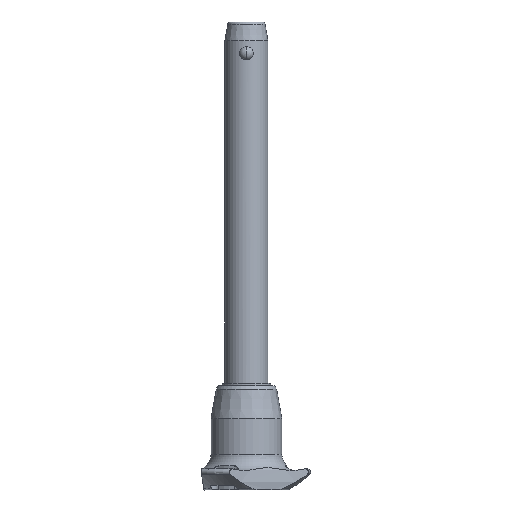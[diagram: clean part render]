
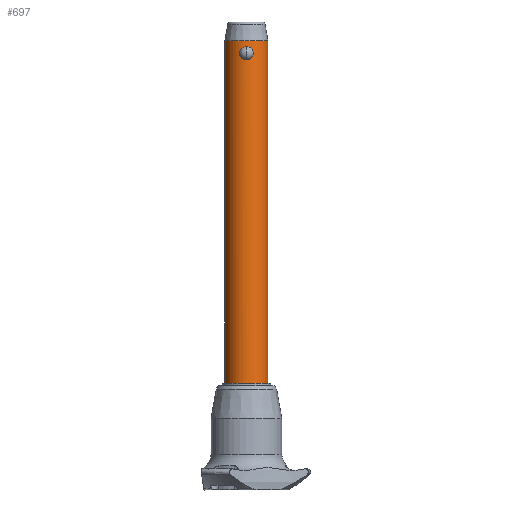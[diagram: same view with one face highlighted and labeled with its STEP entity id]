
A CAD part, front view. The second image highlights one B-rep face of the part: STEP entity #697.
In plain terms, the highlighted cylindrical face has radius 8 mm (diameter 16 mm), a partial arc.
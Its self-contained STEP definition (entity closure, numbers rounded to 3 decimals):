
#45 = CARTESIAN_POINT ( 'NONE',  ( -0.803, -7.961, 4.661 ) ) ;
#99 = CARTESIAN_POINT ( 'NONE',  ( -2.193, -7.694, 3.623 ) ) ;
#110 = ORIENTED_EDGE ( 'NONE', *, *, #1535, .F. ) ;
#112 = CARTESIAN_POINT ( 'NONE',  ( -2.276, -7.67, 3.482 ) ) ;
#152 = CARTESIAN_POINT ( 'NONE',  ( 0., 0., 7. ) ) ;
#160 = EDGE_LOOP ( 'NONE', ( #1386, #2781 ) ) ;
#165 = ORIENTED_EDGE ( 'NONE', *, *, #455, .T. ) ;
#178 = CARTESIAN_POINT ( 'NONE',  ( 1.529, -7.854, 4.312 ) ) ;
#192 = CARTESIAN_POINT ( 'NONE',  ( 2.546, -7.584, 2.22 ) ) ;
#199 = CARTESIAN_POINT ( 'NONE',  ( -8., 0., -120. ) ) ;
#205 = CARTESIAN_POINT ( 'NONE',  ( -0.164, -8., 4.775 ) ) ;
#270 = ORIENTED_EDGE ( 'NONE', *, *, #1216, .F. ) ;
#288 = CARTESIAN_POINT ( 'NONE',  ( -1.53, -7.854, 0.464 ) ) ;
#306 = CARTESIAN_POINT ( 'NONE',  ( -2.459, -7.613, 3.036 ) ) ;
#331 = CARTESIAN_POINT ( 'NONE',  ( -1.106, -7.925, 0.226 ) ) ;
#340 = VERTEX_POINT ( 'NONE', #1372 ) ;
#365 = CARTESIAN_POINT ( 'NONE',  ( 2.529, -7.59, 2.71 ) ) ;
#380 = CARTESIAN_POINT ( 'NONE',  ( 0.326, -7.995, 4.761 ) ) ;
#393 = CIRCLE ( 'NONE', #852, 8. ) ;
#397 = DIRECTION ( 'NONE',  ( 1., 0., 0. ) ) ;
#401 = VECTOR ( 'NONE', #1915, 1000. ) ;
#455 = EDGE_CURVE ( 'NONE', #2051, #1274, #1279, .T. ) ;
#529 = ORIENTED_EDGE ( 'NONE', *, *, #2589, .T. ) ;
#531 = VECTOR ( 'NONE', #1784, 1000. ) ;
#581 = CARTESIAN_POINT ( 'NONE',  ( 2.016, -7.746, 3.891 ) ) ;
#601 = DIRECTION ( 'NONE',  ( 0., 0., -1. ) ) ;
#623 = CARTESIAN_POINT ( 'NONE',  ( 0.804, -7.961, 4.661 ) ) ;
#641 = CARTESIAN_POINT ( 'NONE',  ( 1.105, -7.925, 0.226 ) ) ;
#657 = FACE_OUTER_BOUND ( 'NONE', #1186, .T. ) ;
#697 = ADVANCED_FACE ( 'NONE', ( #657, #1177 ), #739, .T. ) ;
#739 = CYLINDRICAL_SURFACE ( 'NONE', #1614, 8. ) ;
#764 = CARTESIAN_POINT ( 'NONE',  ( -2.547, -7.584, 2.229 ) ) ;
#828 = CARTESIAN_POINT ( 'NONE',  ( 2.41, -7.629, 3.184 ) ) ;
#852 = AXIS2_PLACEMENT_3D ( 'NONE', #1536, #2033, #1329 ) ;
#868 = CARTESIAN_POINT ( 'NONE',  ( -8., 0., -120. ) ) ;
#924 = CARTESIAN_POINT ( 'NONE',  ( -1.252, -7.903, 4.479 ) ) ;
#936 = CARTESIAN_POINT ( 'NONE',  ( -1.658, -7.827, 4.216 ) ) ;
#960 = B_SPLINE_CURVE_WITH_KNOTS ( 'NONE', 3,
 ( #1151, #205, #1102, #2686, #45, #1087, #924, #981, #936, #2730, #2055, #99, #112, #1678, #306, #1194, #1408, #764, #2300, #1207, #2110, #1878, #1381, #1441, #288, #2272, #331, #2560, #2547, #2085 ),
 .UNSPECIFIED., .F., .F.,
 ( 4, 2, 2, 2, 2, 2, 2, 2, 2, 2, 2, 2, 2, 2, 4 ),
 ( 0., 0., 0.001, 0.001, 0.002, 0.002, 0.003, 0.003, 0.004, 0.004, 0.005, 0.006, 0.006, 0.007, 0.008 ),
 .UNSPECIFIED. ) ;
#981 = CARTESIAN_POINT ( 'NONE',  ( -1.527, -7.854, 4.313 ) ) ;
#1014 = CARTESIAN_POINT ( 'NONE',  ( 2.194, -7.694, 1.153 ) ) ;
#1045 = CARTESIAN_POINT ( 'NONE',  ( 0.652, -7.979, 0.058 ) ) ;
#1061 = CARTESIAN_POINT ( 'NONE',  ( 1.108, -7.924, 4.548 ) ) ;
#1074 = CARTESIAN_POINT ( 'NONE',  ( 1.66, -7.827, 4.215 ) ) ;
#1087 = CARTESIAN_POINT ( 'NONE',  ( -1.107, -7.924, 4.548 ) ) ;
#1098 = VERTEX_POINT ( 'NONE', #1760 ) ;
#1102 = CARTESIAN_POINT ( 'NONE',  ( -0.326, -7.995, 4.761 ) ) ;
#1151 = CARTESIAN_POINT ( 'NONE',  ( 0., -8., 4.775 ) ) ;
#1177 = FACE_BOUND ( 'NONE', #160, .T. ) ;
#1186 = EDGE_LOOP ( 'NONE', ( #110, #270, #529, #165 ) ) ;
#1194 = CARTESIAN_POINT ( 'NONE',  ( -2.529, -7.59, 2.716 ) ) ;
#1207 = CARTESIAN_POINT ( 'NONE',  ( -2.461, -7.612, 1.746 ) ) ;
#1216 = EDGE_CURVE ( 'NONE', #340, #1698, #393, .T. ) ;
#1252 = CARTESIAN_POINT ( 'NONE',  ( 0.645, -7.976, 4.704 ) ) ;
#1274 = VERTEX_POINT ( 'NONE', #1284 ) ;
#1279 = CIRCLE ( 'NONE', #2763, 8. ) ;
#1280 = CARTESIAN_POINT ( 'NONE',  ( 1.657, -7.827, 0.558 ) ) ;
#1284 = CARTESIAN_POINT ( 'NONE',  ( -8., 0., 7. ) ) ;
#1294 = CARTESIAN_POINT ( 'NONE',  ( 1.529, -7.854, 0.463 ) ) ;
#1329 = DIRECTION ( 'NONE',  ( 1., 0., 0. ) ) ;
#1365 = CARTESIAN_POINT ( 'NONE',  ( 8., 0., 7. ) ) ;
#1372 = CARTESIAN_POINT ( 'NONE',  ( 8., 0., -120. ) ) ;
#1381 = CARTESIAN_POINT ( 'NONE',  ( -2.016, -7.746, 0.883 ) ) ;
#1386 = ORIENTED_EDGE ( 'NONE', *, *, #2389, .F. ) ;
#1396 = DIRECTION ( 'NONE',  ( 0., 0., 1. ) ) ;
#1408 = CARTESIAN_POINT ( 'NONE',  ( -2.546, -7.584, 2.553 ) ) ;
#1441 = CARTESIAN_POINT ( 'NONE',  ( -1.659, -7.827, 0.559 ) ) ;
#1475 = CARTESIAN_POINT ( 'NONE',  ( 1.253, -7.903, 4.478 ) ) ;
#1499 = CARTESIAN_POINT ( 'NONE',  ( 2.461, -7.612, 3.027 ) ) ;
#1535 = EDGE_CURVE ( 'NONE', #1698, #1274, #2666, .T. ) ;
#1536 = CARTESIAN_POINT ( 'NONE',  ( 0., 0., -120. ) ) ;
#1614 = AXIS2_PLACEMENT_3D ( 'NONE', #2519, #1396, #2689 ) ;
#1678 = CARTESIAN_POINT ( 'NONE',  ( -2.408, -7.629, 3.189 ) ) ;
#1693 = CARTESIAN_POINT ( 'NONE',  ( 0.324, -8., 0. ) ) ;
#1698 = VERTEX_POINT ( 'NONE', #199 ) ;
#1760 = CARTESIAN_POINT ( 'NONE',  ( 0., -8., 4.775 ) ) ;
#1784 = DIRECTION ( 'NONE',  ( 0., 0., 1. ) ) ;
#1794 = CARTESIAN_POINT ( 'NONE',  ( 0., -8., 0. ) ) ;
#1878 = CARTESIAN_POINT ( 'NONE',  ( -2.211, -7.69, 1.148 ) ) ;
#1910 = CARTESIAN_POINT ( 'NONE',  ( 2.547, -7.584, 2.549 ) ) ;
#1915 = DIRECTION ( 'NONE',  ( 0., 0., 1. ) ) ;
#1922 = CARTESIAN_POINT ( 'NONE',  ( 1.894, -7.773, 0.773 ) ) ;
#1964 = CARTESIAN_POINT ( 'NONE',  ( 2.408, -7.629, 1.586 ) ) ;
#2033 = DIRECTION ( 'NONE',  ( 0., 0., -1. ) ) ;
#2047 = B_SPLINE_CURVE_WITH_KNOTS ( 'NONE', 3,
 ( #2632, #1693, #1045, #641, #2602, #1294, #1280, #1922, #2186, #1014, #2375, #1964, #2416, #2364, #192, #1910, #365, #1499, #828, #2788, #581, #1074, #178, #1475, #1061, #623, #1252, #380, #2843, #2387 ),
 .UNSPECIFIED., .F., .F.,
 ( 4, 2, 2, 2, 2, 2, 2, 2, 2, 2, 2, 2, 2, 2, 4 ),
 ( 0.008, 0.009, 0.009, 0.01, 0.01, 0.011, 0.011, 0.012, 0.012, 0.013, 0.014, 0.014, 0.015, 0.015, 0.016 ),
 .UNSPECIFIED. ) ;
#2051 = VERTEX_POINT ( 'NONE', #1365 ) ;
#2055 = CARTESIAN_POINT ( 'NONE',  ( -2.003, -7.746, 3.882 ) ) ;
#2060 = VERTEX_POINT ( 'NONE', #1794 ) ;
#2085 = CARTESIAN_POINT ( 'NONE',  ( 0., -8., 0. ) ) ;
#2110 = CARTESIAN_POINT ( 'NONE',  ( -2.411, -7.628, 1.592 ) ) ;
#2186 = CARTESIAN_POINT ( 'NONE',  ( 2.004, -7.746, 0.894 ) ) ;
#2196 = EDGE_CURVE ( 'NONE', #2060, #1098, #2047, .T. ) ;
#2272 = CARTESIAN_POINT ( 'NONE',  ( -1.254, -7.902, 0.297 ) ) ;
#2300 = CARTESIAN_POINT ( 'NONE',  ( -2.529, -7.59, 2.064 ) ) ;
#2334 = LINE ( 'NONE', #2735, #401 ) ;
#2364 = CARTESIAN_POINT ( 'NONE',  ( 2.528, -7.59, 2.058 ) ) ;
#2375 = CARTESIAN_POINT ( 'NONE',  ( 2.275, -7.67, 1.291 ) ) ;
#2387 = CARTESIAN_POINT ( 'NONE',  ( 0., -8., 4.775 ) ) ;
#2389 = EDGE_CURVE ( 'NONE', #1098, #2060, #960, .T. ) ;
#2416 = CARTESIAN_POINT ( 'NONE',  ( 2.46, -7.613, 1.742 ) ) ;
#2519 = CARTESIAN_POINT ( 'NONE',  ( 0., 0., -120. ) ) ;
#2547 = CARTESIAN_POINT ( 'NONE',  ( -0.324, -8., 0. ) ) ;
#2560 = CARTESIAN_POINT ( 'NONE',  ( -0.652, -7.979, 0.058 ) ) ;
#2589 = EDGE_CURVE ( 'NONE', #340, #2051, #2334, .T. ) ;
#2602 = CARTESIAN_POINT ( 'NONE',  ( 1.252, -7.903, 0.296 ) ) ;
#2632 = CARTESIAN_POINT ( 'NONE',  ( 0., -8., 0. ) ) ;
#2666 = LINE ( 'NONE', #868, #531 ) ;
#2686 = CARTESIAN_POINT ( 'NONE',  ( -0.645, -7.976, 4.704 ) ) ;
#2689 = DIRECTION ( 'NONE',  ( 1., 0., 0. ) ) ;
#2730 = CARTESIAN_POINT ( 'NONE',  ( -1.896, -7.773, 4.001 ) ) ;
#2735 = CARTESIAN_POINT ( 'NONE',  ( 8., 0., -120. ) ) ;
#2763 = AXIS2_PLACEMENT_3D ( 'NONE', #152, #601, #397 ) ;
#2781 = ORIENTED_EDGE ( 'NONE', *, *, #2196, .F. ) ;
#2788 = CARTESIAN_POINT ( 'NONE',  ( 2.211, -7.69, 3.626 ) ) ;
#2843 = CARTESIAN_POINT ( 'NONE',  ( 0.164, -8., 4.775 ) ) ;
